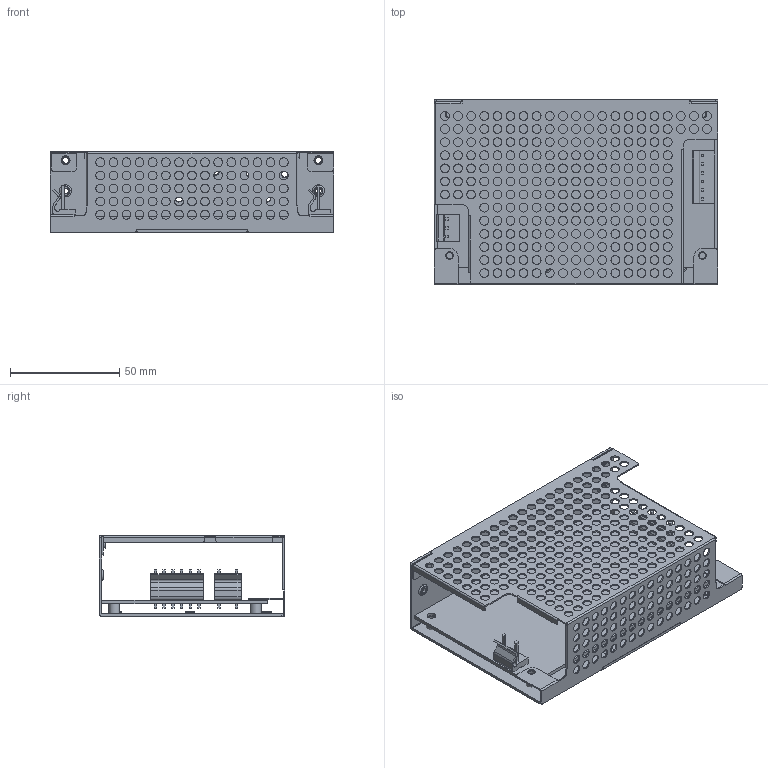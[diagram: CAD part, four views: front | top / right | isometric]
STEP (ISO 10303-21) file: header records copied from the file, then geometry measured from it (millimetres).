
FILE_DESCRIPTION(('Creo Elements/Direct Modeling STEP Export'),'2;1');
FILE_NAME('RPD-65.stp','2019-03-26T14:17:23',(''),(''),'PTC Creo Elements/Direct Modeling STEP processor for AP214 (Solid Model)','PTC Creo Elements/Direct Modeling 19.0 09-May-2014 (C) Parametric Technology GmbH','');
FILE_SCHEMA(('AUTOMOTIVE_DESIGN { 1 0 10303 214 1 1 1 1 }'));
Length unit declared in the file: millimetre
Products named in the file (18): 946A-T.1; M3-6Lê°˜W-1; 946A-D; a1; 946A-D.PRT; M3-6L_S_J_S_0_X2_02DC_X0_W-2.PRT; A1.ASM; 946A-T.PRT; PCB.PRT; CN1.prt.1; CN1.prt.2; CN1.prt.3; CN1.prt.4; CN1.prt.5; CN1.prt; CN2.PRT; RPD-65_1.ASM; 946
Assembly tree (23 placements, depth 4):
  946
    RPD-65_1.ASM
      CN2.PRT
      CN1.prt
        CN1.prt.5
        CN1.prt.4
        CN1.prt.3
        CN1.prt.2
        CN1.prt.1
      PCB.PRT
      946A-T.PRT
      A1.ASM
        M3-6L_S_J_S_0_X2_02DC_X0_W-2.PRT  x4
        946A-D.PRT
    a1
      946A-D
      M3-6Lê°˜W-1  x4
    946A-T.1
Bounding box: 130 x 85 x 37 mm (x, y, z)
Volume: 61036.5 mm3; surface area: 110915.7 mm2
Topology: 18 solids, 18 shells, 1221 faces, 3320 edges, 2181 vertices
Faces by surface type: cylinder 821, plane 300, torus 72, cone 28
Entity records: 36423 total; most frequent: ORIENTED_EDGE 6424, DIRECTION 5725, CARTESIAN_POINT 5682, EDGE_CURVE 3212, AXIS2_PLACEMENT_3D 2152, VERTEX_POINT 2109, EDGE_LOOP 1871, VECTOR 1421
